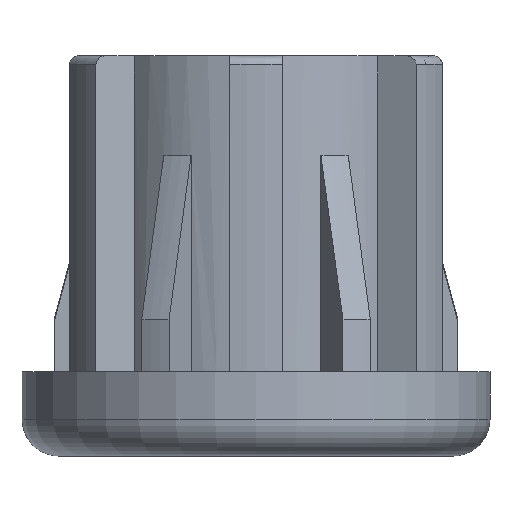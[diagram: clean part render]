
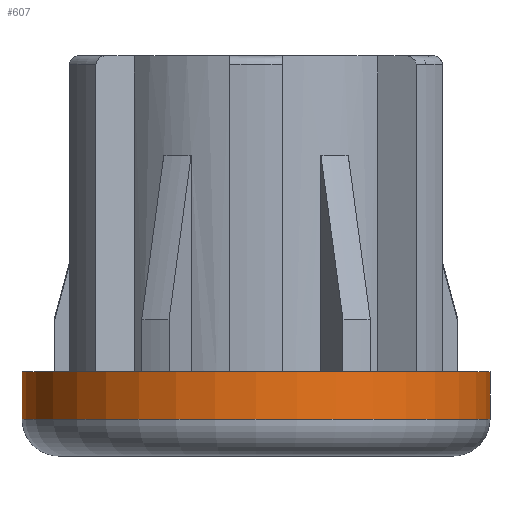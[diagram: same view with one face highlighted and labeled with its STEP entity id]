
A CAD part, front view. The second image highlights one B-rep face of the part: STEP entity #607.
In plain terms, the highlighted cylindrical face has radius 22.225 mm (diameter 44.45 mm), a partial arc.
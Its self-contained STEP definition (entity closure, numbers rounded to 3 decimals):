
#70 = CARTESIAN_POINT ( 'NONE',  ( 22.225, 0., 7.25 ) ) ;
#144 = DIRECTION ( 'NONE',  ( 1., 0., 0. ) ) ;
#153 = CARTESIAN_POINT ( 'NONE',  ( -22.225, 0., 5. ) ) ;
#263 = VECTOR ( 'NONE', #1795, 1000. ) ;
#271 = CYLINDRICAL_SURFACE ( 'NONE', #1299, 22.225 ) ;
#373 = DIRECTION ( 'NONE',  ( 0., 0., 1. ) ) ;
#390 = DIRECTION ( 'NONE',  ( 0., 0., -1. ) ) ;
#468 = CARTESIAN_POINT ( 'NONE',  ( 22.225, 0., 2.75 ) ) ;
#538 = ORIENTED_EDGE ( 'NONE', *, *, #1064, .F. ) ;
#607 = ADVANCED_FACE ( 'NONE', ( #2605 ), #271, .T. ) ;
#639 = DIRECTION ( 'NONE',  ( 1., 0., 0. ) ) ;
#681 = VERTEX_POINT ( 'NONE', #468 ) ;
#700 = VECTOR ( 'NONE', #1389, 1000. ) ;
#743 = ORIENTED_EDGE ( 'NONE', *, *, #2639, .T. ) ;
#852 = CARTESIAN_POINT ( 'NONE',  ( 0., 0., 2.75 ) ) ;
#1046 = CARTESIAN_POINT ( 'NONE',  ( 0., 0., 7.25 ) ) ;
#1064 = EDGE_CURVE ( 'NONE', #681, #1449, #1953, .T. ) ;
#1102 = CARTESIAN_POINT ( 'NONE',  ( 0., 0., -0.75 ) ) ;
#1299 = AXIS2_PLACEMENT_3D ( 'NONE', #1102, #1609, #2549 ) ;
#1322 = LINE ( 'NONE', #1418, #700 ) ;
#1389 = DIRECTION ( 'NONE',  ( 0., 0., 1. ) ) ;
#1418 = CARTESIAN_POINT ( 'NONE',  ( 22.225, 0., 5. ) ) ;
#1449 = VERTEX_POINT ( 'NONE', #2492 ) ;
#1542 = CIRCLE ( 'NONE', #1764, 22.225 ) ;
#1609 = DIRECTION ( 'NONE',  ( 0., 0., -1. ) ) ;
#1664 = AXIS2_PLACEMENT_3D ( 'NONE', #852, #390, #639 ) ;
#1764 = AXIS2_PLACEMENT_3D ( 'NONE', #1046, #373, #144 ) ;
#1782 = CARTESIAN_POINT ( 'NONE',  ( -22.225, 0., 7.25 ) ) ;
#1795 = DIRECTION ( 'NONE',  ( 0., 0., -1. ) ) ;
#1953 = CIRCLE ( 'NONE', #1664, 22.225 ) ;
#1992 = ORIENTED_EDGE ( 'NONE', *, *, #2362, .F. ) ;
#2030 = ORIENTED_EDGE ( 'NONE', *, *, #2856, .T. ) ;
#2050 = EDGE_LOOP ( 'NONE', ( #743, #1992, #2030, #538 ) ) ;
#2362 = EDGE_CURVE ( 'NONE', #2887, #2819, #1542, .T. ) ;
#2492 = CARTESIAN_POINT ( 'NONE',  ( -22.225, 0., 2.75 ) ) ;
#2549 = DIRECTION ( 'NONE',  ( 1., 0., 0. ) ) ;
#2605 = FACE_OUTER_BOUND ( 'NONE', #2050, .T. ) ;
#2639 = EDGE_CURVE ( 'NONE', #681, #2819, #1322, .T. ) ;
#2735 = LINE ( 'NONE', #153, #263 ) ;
#2819 = VERTEX_POINT ( 'NONE', #70 ) ;
#2856 = EDGE_CURVE ( 'NONE', #2887, #1449, #2735, .T. ) ;
#2887 = VERTEX_POINT ( 'NONE', #1782 ) ;
